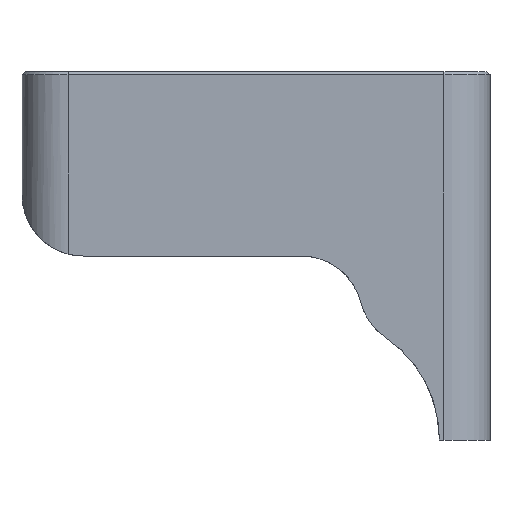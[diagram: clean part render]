
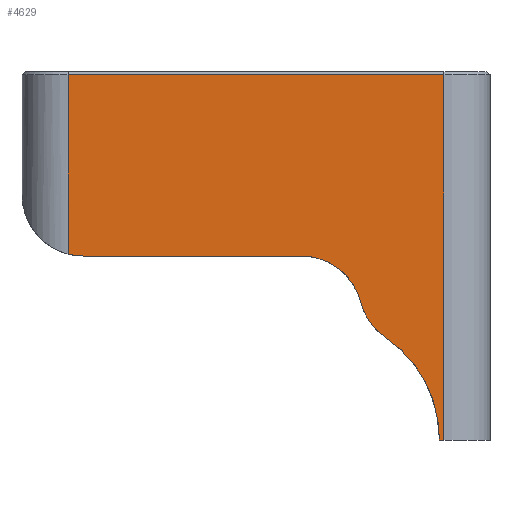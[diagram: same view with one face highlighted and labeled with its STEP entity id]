
A CAD part, left-side view. The second image highlights one B-rep face of the part: STEP entity #4629.
In plain terms, the highlighted planar face has unit normal (-1, 0, 0).
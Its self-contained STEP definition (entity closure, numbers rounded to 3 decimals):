
#541=CIRCLE('',#4879,8.);
#547=CIRCLE('',#4895,4.);
#548=CIRCLE('',#4896,4.);
#549=CIRCLE('',#4897,4.);
#819=FACE_OUTER_BOUND('',#1093,.T.);
#1093=EDGE_LOOP('',(#4148,#4149,#4150,#4151,#4152,#4153,#4154,#4155,#4156,
#4157));
#1400=LINE('',#9703,#1714);
#1409=LINE('',#9735,#1723);
#1415=LINE('',#9753,#1729);
#1416=LINE('',#9757,#1730);
#1417=LINE('',#9761,#1731);
#1418=LINE('',#9765,#1732);
#1714=VECTOR('',#5646,10.);
#1723=VECTOR('',#5667,10.);
#1729=VECTOR('',#5691,10.);
#1730=VECTOR('',#5696,10.);
#1731=VECTOR('',#5699,10.);
#1732=VECTOR('',#5704,10.);
#2179=VERTEX_POINT('',#9700);
#2180=VERTEX_POINT('',#9702);
#2182=VERTEX_POINT('',#9708);
#2186=VERTEX_POINT('',#9729);
#2187=VERTEX_POINT('',#9733);
#2190=VERTEX_POINT('',#9752);
#2191=VERTEX_POINT('',#9756);
#2192=VERTEX_POINT('',#9758);
#2193=VERTEX_POINT('',#9760);
#2194=VERTEX_POINT('',#9762);
#2840=EDGE_CURVE('',#2180,#2179,#1400,.T.);
#2843=EDGE_CURVE('',#2182,#2180,#541,.F.);
#2852=EDGE_CURVE('',#2186,#2187,#1409,.T.);
#2861=EDGE_CURVE('',#2187,#2190,#1415,.T.);
#2863=EDGE_CURVE('',#2191,#2186,#1416,.T.);
#2864=EDGE_CURVE('',#2192,#2191,#547,.T.);
#2865=EDGE_CURVE('',#2192,#2193,#1417,.T.);
#2866=EDGE_CURVE('',#2194,#2193,#548,.T.);
#2867=EDGE_CURVE('',#2182,#2194,#549,.T.);
#2868=EDGE_CURVE('',#2190,#2179,#1418,.T.);
#4148=ORIENTED_EDGE('',*,*,#2852,.F.);
#4149=ORIENTED_EDGE('',*,*,#2863,.F.);
#4150=ORIENTED_EDGE('',*,*,#2864,.F.);
#4151=ORIENTED_EDGE('',*,*,#2865,.T.);
#4152=ORIENTED_EDGE('',*,*,#2866,.F.);
#4153=ORIENTED_EDGE('',*,*,#2867,.F.);
#4154=ORIENTED_EDGE('',*,*,#2843,.T.);
#4155=ORIENTED_EDGE('',*,*,#2840,.T.);
#4156=ORIENTED_EDGE('',*,*,#2868,.F.);
#4157=ORIENTED_EDGE('',*,*,#2861,.F.);
#4392=PLANE('',#4894);
#4629=ADVANCED_FACE('',(#819),#4392,.T.);
#4879=AXIS2_PLACEMENT_3D('',#9709,#5651,#5652);
#4894=AXIS2_PLACEMENT_3D('',#9755,#5694,#5695);
#4895=AXIS2_PLACEMENT_3D('',#9759,#5697,#5698);
#4896=AXIS2_PLACEMENT_3D('',#9763,#5700,#5701);
#4897=AXIS2_PLACEMENT_3D('',#9764,#5702,#5703);
#5646=DIRECTION('',(0.,0.,-1.));
#5651=DIRECTION('center_axis',(-1.,0.,0.));
#5652=DIRECTION('ref_axis',(0.,1.,0.));
#5667=DIRECTION('',(0.,-1.,0.));
#5691=DIRECTION('',(0.,0.,-1.));
#5694=DIRECTION('center_axis',(-1.,0.,0.));
#5695=DIRECTION('ref_axis',(0.,-1.,0.));
#5696=DIRECTION('',(0.,0.,1.));
#5697=DIRECTION('center_axis',(1.,0.,0.));
#5698=DIRECTION('ref_axis',(0.,0.707,-0.707));
#5699=DIRECTION('',(0.,-1.,0.));
#5700=DIRECTION('center_axis',(-1.,0.,0.));
#5701=DIRECTION('ref_axis',(0.,-0.707,0.707));
#5702=DIRECTION('center_axis',(1.,0.,0.));
#5703=DIRECTION('ref_axis',(0.,0.,1.));
#5704=DIRECTION('',(0.,1.,0.));
#9700=CARTESIAN_POINT('',(-30.7,-8.389,119.8));
#9702=CARTESIAN_POINT('',(-30.7,-8.389,119.876));
#9703=CARTESIAN_POINT('',(-30.7,-8.389,135.8));
#9708=CARTESIAN_POINT('',(-30.7,-4.886,126.492));
#9709=CARTESIAN_POINT('Origin',(-30.7,-0.389,119.876));
#9729=CARTESIAN_POINT('',(-30.7,15.811,143.6));
#9733=CARTESIAN_POINT('',(-30.7,-8.689,143.6));
#9735=CARTESIAN_POINT('',(-30.7,11.186,143.6));
#9752=CARTESIAN_POINT('',(-30.7,-8.689,119.8));
#9753=CARTESIAN_POINT('',(-30.7,-8.689,135.8));
#9755=CARTESIAN_POINT('Origin',(-30.7,18.811,135.8));
#9756=CARTESIAN_POINT('',(-30.7,15.811,131.927));
#9757=CARTESIAN_POINT('',(-30.7,15.811,135.8));
#9758=CARTESIAN_POINT('',(-30.7,14.811,131.8));
#9759=CARTESIAN_POINT('Origin',(-30.7,14.811,135.8));
#9760=CARTESIAN_POINT('',(-30.7,0.611,131.8));
#9761=CARTESIAN_POINT('',(-30.7,18.811,131.8));
#9762=CARTESIAN_POINT('',(-30.7,-3.262,128.8));
#9763=CARTESIAN_POINT('Origin',(-30.7,0.611,127.8));
#9764=CARTESIAN_POINT('Origin',(-30.7,-7.135,129.8));
#9765=CARTESIAN_POINT('',(-30.7,-11.689,119.8));
